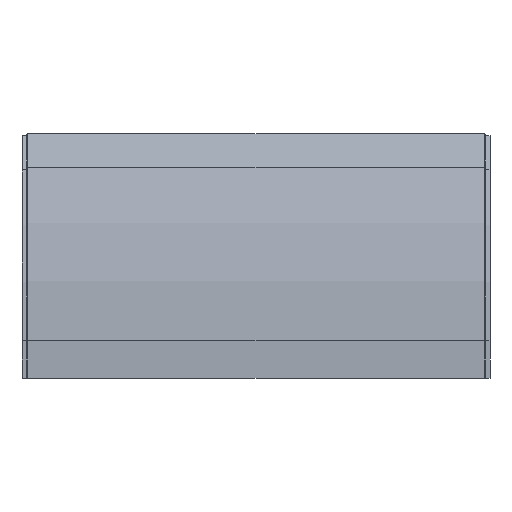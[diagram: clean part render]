
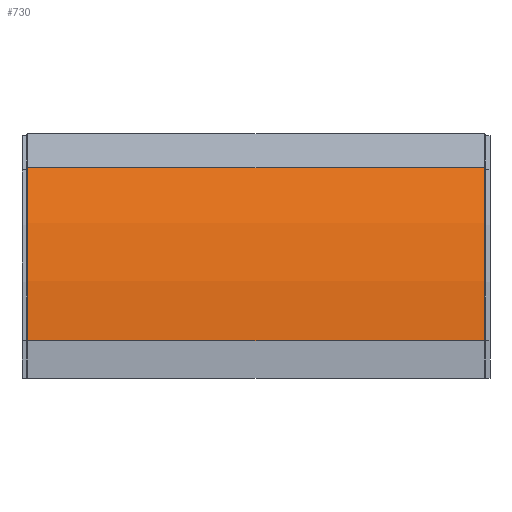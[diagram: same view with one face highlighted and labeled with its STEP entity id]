
A CAD part, front view. The second image highlights one B-rep face of the part: STEP entity #730.
In plain terms, the highlighted cylindrical face has radius 568.25 mm (diameter 1136.5 mm), a partial arc.
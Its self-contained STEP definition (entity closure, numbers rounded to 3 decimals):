
#71 = LINE ( 'NONE', #1276, #1204 ) ;
#81 = VERTEX_POINT ( 'NONE', #488 ) ;
#85 = CARTESIAN_POINT ( 'NONE',  ( 0., 500., 52.5 ) ) ;
#87 = DIRECTION ( 'NONE',  ( 1., 0., 0. ) ) ;
#175 = DIRECTION ( 'NONE',  ( 0., 0., 1. ) ) ;
#188 = EDGE_CURVE ( 'NONE', #1191, #1368, #1278, .T. ) ;
#276 = ORIENTED_EDGE ( 'NONE', *, *, #1374, .T. ) ;
#354 = CARTESIAN_POINT ( 'NONE',  ( -317.5, -15.009, 292.653 ) ) ;
#377 = ORIENTED_EDGE ( 'NONE', *, *, #188, .F. ) ;
#445 = VERTEX_POINT ( 'NONE', #845 ) ;
#447 = DIRECTION ( 'NONE',  ( -1., 0., 0. ) ) ;
#456 = CARTESIAN_POINT ( 'NONE',  ( -317.5, 500., 52.5 ) ) ;
#488 = CARTESIAN_POINT ( 'NONE',  ( 317.5, -15.009, 292.653 ) ) ;
#525 = AXIS2_PLACEMENT_3D ( 'NONE', #456, #887, #1197 ) ;
#594 = CYLINDRICAL_SURFACE ( 'NONE', #1205, 568.25 ) ;
#621 = ORIENTED_EDGE ( 'NONE', *, *, #1152, .T. ) ;
#648 = CARTESIAN_POINT ( 'NONE',  ( -317.5, -15.009, 292.653 ) ) ;
#729 = CARTESIAN_POINT ( 'NONE',  ( -317.5, -68.25, 52.5 ) ) ;
#730 = ADVANCED_FACE ( 'NONE', ( #792 ), #594, .T. ) ;
#778 = DIRECTION ( 'NONE',  ( 0., 0., 1. ) ) ;
#792 = FACE_OUTER_BOUND ( 'NONE', #1011, .T. ) ;
#807 = VECTOR ( 'NONE', #1393, 1000. ) ;
#845 = CARTESIAN_POINT ( 'NONE',  ( 317.5, -68.25, 52.5 ) ) ;
#887 = DIRECTION ( 'NONE',  ( -1., 0., 0. ) ) ;
#958 = AXIS2_PLACEMENT_3D ( 'NONE', #1082, #447, #175 ) ;
#985 = CIRCLE ( 'NONE', #958, 568.25 ) ;
#1000 = EDGE_CURVE ( 'NONE', #1368, #81, #1275, .T. ) ;
#1011 = EDGE_LOOP ( 'NONE', ( #621, #276, #1163, #377 ) ) ;
#1082 = CARTESIAN_POINT ( 'NONE',  ( 317.5, 500., 52.5 ) ) ;
#1152 = EDGE_CURVE ( 'NONE', #1191, #445, #71, .T. ) ;
#1163 = ORIENTED_EDGE ( 'NONE', *, *, #1000, .F. ) ;
#1191 = VERTEX_POINT ( 'NONE', #729 ) ;
#1197 = DIRECTION ( 'NONE',  ( 0., 0., 1. ) ) ;
#1204 = VECTOR ( 'NONE', #87, 1000. ) ;
#1205 = AXIS2_PLACEMENT_3D ( 'NONE', #85, #1405, #778 ) ;
#1275 = LINE ( 'NONE', #648, #807 ) ;
#1276 = CARTESIAN_POINT ( 'NONE',  ( -317.5, -68.25, 52.5 ) ) ;
#1278 = CIRCLE ( 'NONE', #525, 568.25 ) ;
#1368 = VERTEX_POINT ( 'NONE', #354 ) ;
#1374 = EDGE_CURVE ( 'NONE', #445, #81, #985, .T. ) ;
#1393 = DIRECTION ( 'NONE',  ( 1., 0., 0. ) ) ;
#1405 = DIRECTION ( 'NONE',  ( -1., 0., 0. ) ) ;
